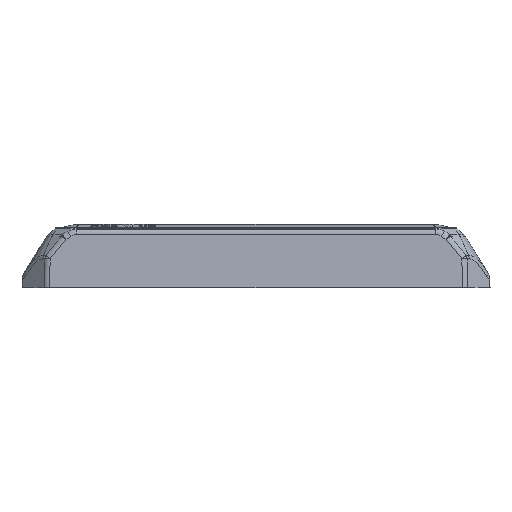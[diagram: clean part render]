
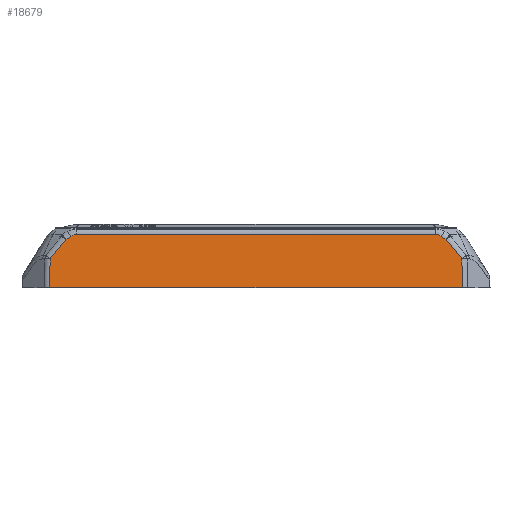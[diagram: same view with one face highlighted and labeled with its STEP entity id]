
A CAD part, top view. The second image highlights one B-rep face of the part: STEP entity #18679.
In plain terms, the highlighted planar face has unit normal (0, 0.052, 0.999).
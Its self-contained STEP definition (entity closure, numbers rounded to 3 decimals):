
#18632=AXIS2_PLACEMENT_3D('Plane Axis2P3D',#18629,#18630,#18631) ;
#17534=CARTESIAN_POINT('Vertex',(-50.41,18.984,13.178)) ;
#17541=CARTESIAN_POINT('Vertex',(-51.763,18.104,13.224)) ;
#17544=CARTESIAN_POINT('Line Origine',(-49.98,19.263,13.163)) ;
#17610=CARTESIAN_POINT('Vertex',(-48.984,19.534,13.149)) ;
#17614=CARTESIAN_POINT('Control Point',(-50.41,18.984,13.178)) ;
#17615=CARTESIAN_POINT('Control Point',(-50.263,19.079,13.173)) ;
#17616=CARTESIAN_POINT('Control Point',(-50.116,19.169,13.168)) ;
#17617=CARTESIAN_POINT('Control Point',(-49.97,19.251,13.164)) ;
#17618=CARTESIAN_POINT('Control Point',(-49.677,19.396,13.156)) ;
#17619=CARTESIAN_POINT('Control Point',(-49.39,19.489,13.151)) ;
#17620=CARTESIAN_POINT('Control Point',(-49.269,19.517,13.15)) ;
#17621=CARTESIAN_POINT('Control Point',(-49.126,19.534,13.149)) ;
#17622=CARTESIAN_POINT('Control Point',(-48.984,19.534,13.149)) ;
#17640=CARTESIAN_POINT('Vertex',(48.984,19.534,13.149)) ;
#17643=CARTESIAN_POINT('Line Origine',(49.278,19.534,13.149)) ;
#17702=CARTESIAN_POINT('Vertex',(50.41,18.984,13.178)) ;
#17706=CARTESIAN_POINT('Control Point',(48.984,19.534,13.149)) ;
#17707=CARTESIAN_POINT('Control Point',(49.057,19.534,13.149)) ;
#17708=CARTESIAN_POINT('Control Point',(49.13,19.53,13.149)) ;
#17709=CARTESIAN_POINT('Control Point',(49.198,19.521,13.15)) ;
#17710=CARTESIAN_POINT('Control Point',(49.33,19.498,13.151)) ;
#17711=CARTESIAN_POINT('Control Point',(49.463,19.461,13.153)) ;
#17712=CARTESIAN_POINT('Control Point',(49.533,19.44,13.154)) ;
#17713=CARTESIAN_POINT('Control Point',(49.749,19.36,13.158)) ;
#17714=CARTESIAN_POINT('Control Point',(49.97,19.251,13.164)) ;
#17715=CARTESIAN_POINT('Control Point',(50.116,19.169,13.168)) ;
#17716=CARTESIAN_POINT('Control Point',(50.263,19.079,13.173)) ;
#17717=CARTESIAN_POINT('Control Point',(50.41,18.984,13.178)) ;
#17735=CARTESIAN_POINT('Vertex',(51.763,18.104,13.224)) ;
#17738=CARTESIAN_POINT('Line Origine',(52.248,17.789,13.241)) ;
#18629=CARTESIAN_POINT('Axis2P3D Location',(85.566,21.338,13.055)) ;
#18634=CARTESIAN_POINT('Line Origine',(56.145,8.95,13.704)) ;
#18638=CARTESIAN_POINT('Vertex',(56.061,12.85,13.499)) ;
#18640=CARTESIAN_POINT('Vertex',(56.23,5.05,13.908)) ;
#18643=CARTESIAN_POINT('Line Origine',(53.912,15.477,13.362)) ;
#18648=CARTESIAN_POINT('Line Origine',(-53.912,15.477,13.362)) ;
#18652=CARTESIAN_POINT('Vertex',(-56.061,12.85,13.499)) ;
#18655=CARTESIAN_POINT('Line Origine',(-56.145,8.95,13.704)) ;
#18659=CARTESIAN_POINT('Vertex',(-56.23,5.05,13.908)) ;
#18662=CARTESIAN_POINT('Line Origine',(0.,5.05,13.908)) ;
#17545=DIRECTION('Vector Direction',(-0.838,-0.545,0.029)) ;
#17644=DIRECTION('Vector Direction',(-1.,0.,0.)) ;
#17739=DIRECTION('Vector Direction',(-0.838,0.545,-0.029)) ;
#18630=DIRECTION('Axis2P3D Direction',(-0.,-0.052,-0.999)) ;
#18631=DIRECTION('Axis2P3D XDirection',(-1.,0.,0.)) ;
#18635=DIRECTION('Vector Direction',(0.022,-0.998,0.052)) ;
#18644=DIRECTION('Vector Direction',(0.633,-0.773,0.041)) ;
#18649=DIRECTION('Vector Direction',(0.633,0.773,-0.041)) ;
#18656=DIRECTION('Vector Direction',(0.022,0.998,-0.052)) ;
#18663=DIRECTION('Vector Direction',(1.,0.,0.)) ;
#17546=VECTOR('Line Direction',#17545,1.) ;
#17645=VECTOR('Line Direction',#17644,1.) ;
#17740=VECTOR('Line Direction',#17739,1.) ;
#18636=VECTOR('Line Direction',#18635,1.) ;
#18645=VECTOR('Line Direction',#18644,1.) ;
#18650=VECTOR('Line Direction',#18649,1.) ;
#18657=VECTOR('Line Direction',#18656,1.) ;
#18664=VECTOR('Line Direction',#18663,1.) ;
#18668=ORIENTED_EDGE('',*,*,#18642,.F.) ;
#18669=ORIENTED_EDGE('',*,*,#18647,.F.) ;
#18670=ORIENTED_EDGE('',*,*,#17742,.F.) ;
#18671=ORIENTED_EDGE('',*,*,#17718,.F.) ;
#18672=ORIENTED_EDGE('',*,*,#17647,.T.) ;
#18673=ORIENTED_EDGE('',*,*,#17623,.F.) ;
#18674=ORIENTED_EDGE('',*,*,#17548,.F.) ;
#18675=ORIENTED_EDGE('',*,*,#18654,.F.) ;
#18676=ORIENTED_EDGE('',*,*,#18661,.F.) ;
#18677=ORIENTED_EDGE('',*,*,#18666,.T.) ;
#18679=ADVANCED_FACE('MANIFOLD_SOLID_BREP #90808',(#18678),#18633,.F.) ;
#17613=B_SPLINE_CURVE_WITH_KNOTS('',5,(#17614,#17615,#17616,#17617,#17618,#17619,#17620,#17621,#17622),.UNSPECIFIED.,.F.,.U.,(6,3,6),(0.,1.305,2.651),.UNSPECIFIED.) ;
#17705=B_SPLINE_CURVE_WITH_KNOTS('',5,(#17706,#17707,#17708,#17709,#17710,#17711,#17712,#17713,#17714,#17715,#17716,#17717),.UNSPECIFIED.,.F.,.U.,(6,3,3,6),(0.,0.688,1.376,2.681),.UNSPECIFIED.) ;
#17548=EDGE_CURVE('',#17542,#17535,#17547,.F.) ;
#17623=EDGE_CURVE('',#17535,#17611,#17613,.T.) ;
#17647=EDGE_CURVE('',#17641,#17611,#17646,.T.) ;
#17718=EDGE_CURVE('',#17641,#17703,#17705,.T.) ;
#17742=EDGE_CURVE('',#17703,#17736,#17741,.F.) ;
#18642=EDGE_CURVE('',#18639,#18641,#18637,.T.) ;
#18647=EDGE_CURVE('',#17736,#18639,#18646,.T.) ;
#18654=EDGE_CURVE('',#18653,#17542,#18651,.T.) ;
#18661=EDGE_CURVE('',#18660,#18653,#18658,.T.) ;
#18666=EDGE_CURVE('',#18660,#18641,#18665,.T.) ;
#18667=EDGE_LOOP('',(#18668,#18669,#18670,#18671,#18672,#18673,#18674,#18675,#18676,#18677)) ;
#18678=FACE_OUTER_BOUND('',#18667,.T.) ;
#17547=LINE('Line',#17544,#17546) ;
#17646=LINE('Line',#17643,#17645) ;
#17741=LINE('Line',#17738,#17740) ;
#18637=LINE('Line',#18634,#18636) ;
#18646=LINE('Line',#18643,#18645) ;
#18651=LINE('Line',#18648,#18650) ;
#18658=LINE('Line',#18655,#18657) ;
#18665=LINE('Line',#18662,#18664) ;
#18633=PLANE('',#18632) ;
#17535=VERTEX_POINT('',#17534) ;
#17542=VERTEX_POINT('',#17541) ;
#17611=VERTEX_POINT('',#17610) ;
#17641=VERTEX_POINT('',#17640) ;
#17703=VERTEX_POINT('',#17702) ;
#17736=VERTEX_POINT('',#17735) ;
#18639=VERTEX_POINT('',#18638) ;
#18641=VERTEX_POINT('',#18640) ;
#18653=VERTEX_POINT('',#18652) ;
#18660=VERTEX_POINT('',#18659) ;
